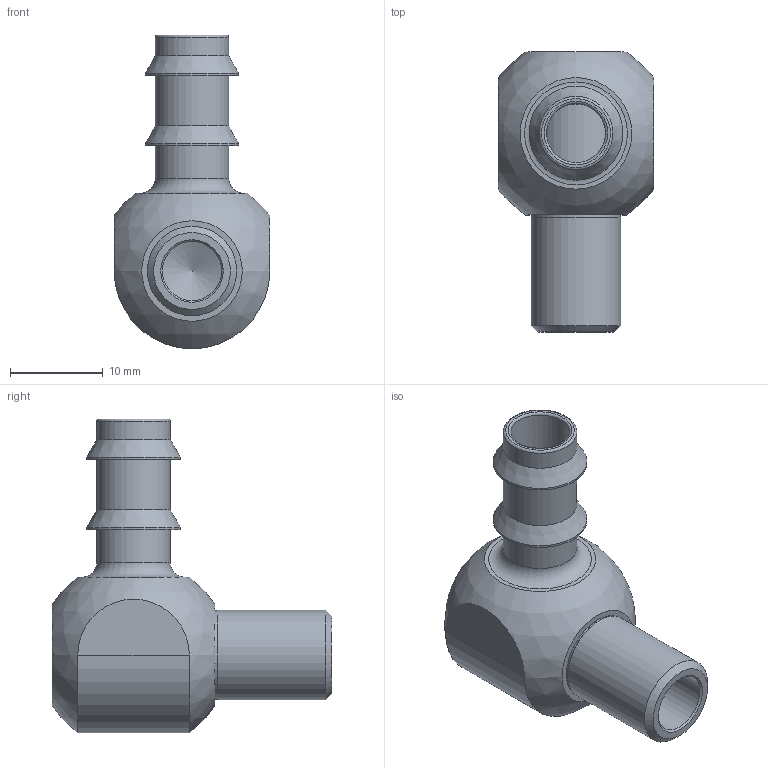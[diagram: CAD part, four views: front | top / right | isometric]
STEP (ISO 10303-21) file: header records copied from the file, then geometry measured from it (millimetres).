
FILE_DESCRIPTION(/* description */ (''),/* implementation_level */ '2;1');
FILE_NAME(/* name */ 'C:/Users/drich/Desktop/WJ18-S v1.step',/* time_stamp */ '2019-12-29T15:35:18-06:00',/* author */ (''),/* organization */ (''),/* preprocessor_version */ 'ST-DEVELOPER v18',/* originating_system */ 'Autodesk Translation Framework v8.12.0.6',/* authorisation */ '');
FILE_SCHEMA (('AUTOMOTIVE_DESIGN { 1 0 10303 214 3 1 1 }'));
Length unit declared in the file: inch
Products named in the file (2): WJ18-S; WJ18-S SHAFT
Assembly tree (1 placements, depth 2):
  WJ18-S
    WJ18-S SHAFT
Bounding box: 16.76 x 30.15 x 33.78 mm (x, y, z)
Volume: 4181.8 mm3; surface area: 3999.5 mm2
Topology: 2 solids, 2 shells, 38 faces, 99 edges, 72 vertices
Faces by surface type: plane 18, cylinder 11, cone 5, torus 3, sphere 1
Full cylindrical faces by diameter (mm): 6.35 x2, 7.925 x3, 9.525 x2, 9.621 x1, 10.109 x2
Entity records: 1324 total; most frequent: CARTESIAN_POINT 245, DIRECTION 239, ORIENTED_EDGE 196, AXIS2_PLACEMENT_3D 102, EDGE_CURVE 98, VERTEX_POINT 72, CIRCLE 61, EDGE_LOOP 50
